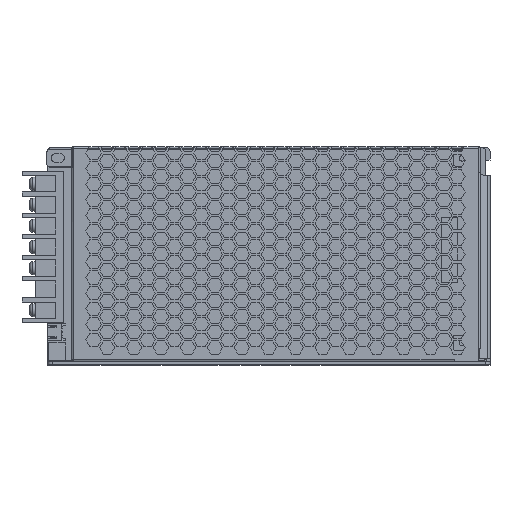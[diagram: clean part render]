
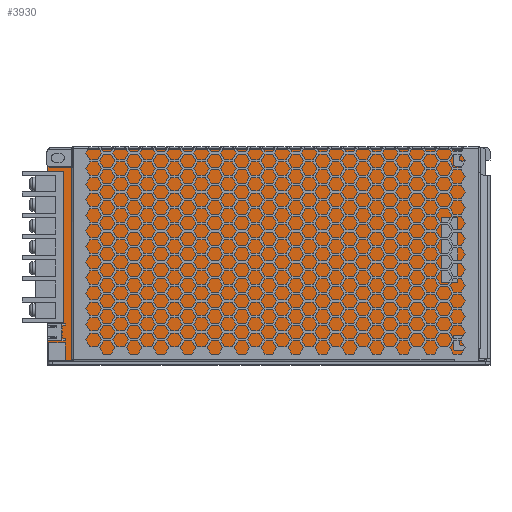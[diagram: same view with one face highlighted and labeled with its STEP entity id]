
A CAD part, top view. The second image highlights one B-rep face of the part: STEP entity #3930.
In plain terms, the highlighted planar face has unit normal (0, 0, 1).
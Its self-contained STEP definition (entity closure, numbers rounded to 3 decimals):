
#60=CARTESIAN_POINT('',(0.,204.625,0.));
#70=DIRECTION('',(1.,0.,0.));
#80=VECTOR('',#70,1.);
#90=LINE('',#60,#80);
#100=CARTESIAN_POINT('',(-321.667,204.625,0.));
#110=VERTEX_POINT('',#100);
#120=CARTESIAN_POINT('',(-227.604,204.625,0.));
#130=VERTEX_POINT('',#120);
#140=EDGE_CURVE('',#110,#130,#90,.T.);
#500=CARTESIAN_POINT('',(-135.667,299.625,0.));
#510=VERTEX_POINT('',#500);
#680=CARTESIAN_POINT('',(-135.667,204.625,0.));
#690=VERTEX_POINT('',#680);
#720=CARTESIAN_POINT('',(-135.667,0.,0.));
#730=DIRECTION('',(0.,1.,0.));
#740=VECTOR('',#730,1.);
#750=LINE('',#720,#740);
#760=EDGE_CURVE('',#690,#510,#750,.T.);
#980=CARTESIAN_POINT('',(-321.667,212.625,0.));
#990=VERTEX_POINT('',#980);
#1020=CARTESIAN_POINT('',(-321.667,0.,0.));
#1030=DIRECTION('',(0.,-1.,0.));
#1040=VECTOR('',#1030,1.);
#1050=LINE('',#1020,#1040);
#1060=EDGE_CURVE('',#990,#110,#1050,.T.);
#1170=CARTESIAN_POINT('',(0.,212.625,0.));
#1180=DIRECTION('',(1.,0.,0.));
#1190=VECTOR('',#1180,1.);
#1200=LINE('',#1170,#1190);
#1210=CARTESIAN_POINT('',(-329.667,212.625,0.));
#1220=VERTEX_POINT('',#1210);
#1230=EDGE_CURVE('',#1220,#990,#1200,.T.);
#1570=CARTESIAN_POINT('',(0.,299.625,0.));
#1580=DIRECTION('',(-1.,0.,0.));
#1590=VECTOR('',#1580,1.);
#1600=LINE('',#1570,#1590);
#1610=CARTESIAN_POINT('',(-329.667,299.625,0.));
#1620=VERTEX_POINT('',#1610);
#1630=EDGE_CURVE('',#510,#1620,#1600,.T.);
#1860=CARTESIAN_POINT('',(-329.667,0.,0.));
#1870=DIRECTION('',(0.,-1.,0.));
#1880=VECTOR('',#1870,1.);
#1890=LINE('',#1860,#1880);
#1900=EDGE_CURVE('',#1620,#1220,#1890,.T.);
#1960=CARTESIAN_POINT('',(0.,204.625,0.));
#1970=DIRECTION('',(1.,0.,0.));
#1980=VECTOR('',#1970,1.);
#1990=LINE('',#1960,#1980);
#2000=CARTESIAN_POINT('',(-149.167,204.625,0.));
#2010=VERTEX_POINT('',#2000);
#2020=EDGE_CURVE('',#2010,#690,#1990,.T.);
#2330=CARTESIAN_POINT('',(-227.604,205.625,0.));
#2340=VERTEX_POINT('',#2330);
#2370=CARTESIAN_POINT('',(0.,205.625,0.));
#2380=DIRECTION('',(-1.,0.,0.));
#2390=VECTOR('',#2380,1.);
#2400=LINE('',#2370,#2390);
#2410=CARTESIAN_POINT('',(-149.167,205.625,0.));
#2420=VERTEX_POINT('',#2410);
#2430=EDGE_CURVE('',#2420,#2340,#2400,.T.);
#2680=CARTESIAN_POINT('',(-227.604,0.,0.));
#2690=DIRECTION('',(0.,-1.,0.));
#2700=VECTOR('',#2690,1.);
#2710=LINE('',#2680,#2700);
#2720=EDGE_CURVE('',#2340,#130,#2710,.T.);
#2960=CARTESIAN_POINT('',(-149.167,0.,0.));
#2970=DIRECTION('',(0.,1.,0.));
#2980=VECTOR('',#2970,1.);
#2990=LINE('',#2960,#2980);
#3000=EDGE_CURVE('',#2010,#2420,#2990,.T.);
#3480=CARTESIAN_POINT('',(-322.167,296.125,0.));
#3490=VERTEX_POINT('',#3480);
#3570=CARTESIAN_POINT('',(-328.167,296.125,0.));
#3580=VERTEX_POINT('',#3570);
#3610=CARTESIAN_POINT('',(-325.167,296.125,0.));
#3620=DIRECTION('',(0.,0.,1.));
#3630=DIRECTION('',(1.,0.,0.));
#3640=AXIS2_PLACEMENT_3D('',#3610,#3620,#3630);
#3650=CIRCLE('',#3640,3.);
#3660=EDGE_CURVE('',#3490,#3580,#3650,.T.);
#3710=CARTESIAN_POINT('',(0.,0.,0.));
#3720=DIRECTION('',(0.,0.,1.));
#3730=DIRECTION('',(1.,0.,0.));
#3740=AXIS2_PLACEMENT_3D('',#3710,#3720,#3730);
#3750=PLANE('',#3740);
#3760=EDGE_CURVE('',#3580,#3490,#3650,.T.);
#3770=ORIENTED_EDGE('',*,*,#3760,.F.);
#3780=ORIENTED_EDGE('',*,*,#3660,.F.);
#3790=EDGE_LOOP('',(#3780,#3770));
#3800=FACE_BOUND('',#3790,.T.);
#3810=ORIENTED_EDGE('',*,*,#3000,.F.);
#3820=ORIENTED_EDGE('',*,*,#2430,.F.);
#3830=ORIENTED_EDGE('',*,*,#2720,.F.);
#3840=ORIENTED_EDGE('',*,*,#140,.T.);
#3850=ORIENTED_EDGE('',*,*,#1060,.T.);
#3860=ORIENTED_EDGE('',*,*,#1230,.T.);
#3870=ORIENTED_EDGE('',*,*,#1900,.T.);
#3880=ORIENTED_EDGE('',*,*,#1630,.T.);
#3890=ORIENTED_EDGE('',*,*,#760,.T.);
#3900=ORIENTED_EDGE('',*,*,#2020,.T.);
#3910=EDGE_LOOP('',(#3900,#3890,#3880,#3870,#3860,#3850,#3840,#3830,
#3820,#3810));
#3920=FACE_OUTER_BOUND('',#3910,.T.);
#3930=ADVANCED_FACE('',(#3800,#3920),#3750,.T.);
